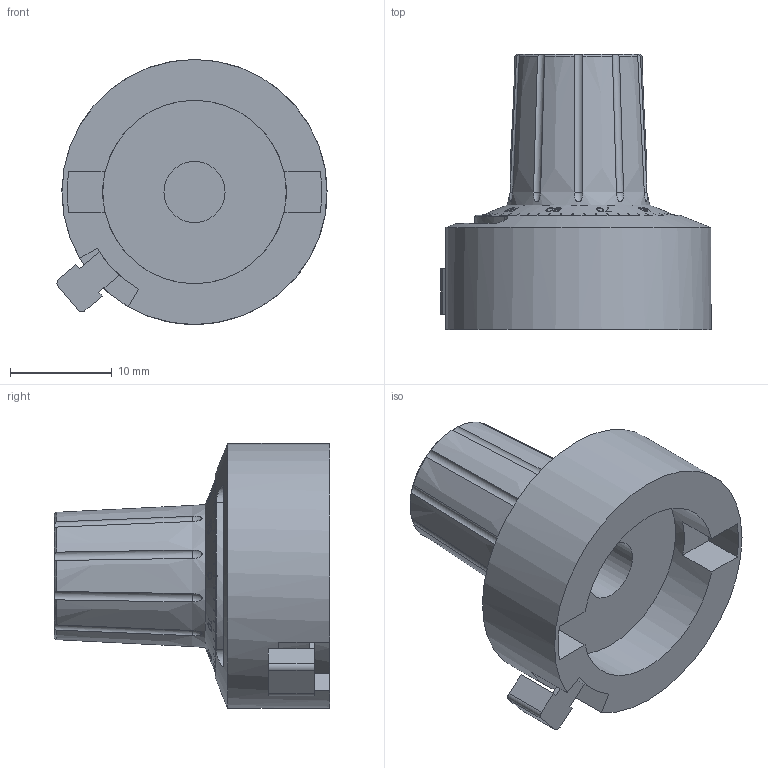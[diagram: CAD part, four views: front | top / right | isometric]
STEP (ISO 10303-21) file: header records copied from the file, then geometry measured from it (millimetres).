
FILE_DESCRIPTION (( 'STEP AP214' ), '1' );
FILE_NAME ('SKT-Dummy.STEP', '2019-05-16T12:38:11', ( '' ), ( '' ), 'SwSTEP 2.0', 'SolidWorks 2017', '' );
FILE_SCHEMA (( 'AUTOMOTIVE_DESIGN' ));
Length unit declared in the file: millimetre
Products named in the file (1): SKT-Dummy
Bounding box: 26.49 x 27 x 26 mm (x, y, z)
Volume: 6064 mm3; surface area: 3358.5 mm2
Topology: 1 solids, 1 shells, 564 faces, 1470 edges, 947 vertices
Faces by surface type: plane 349, bspline 153, cone 29, cylinder 23, torus 10
Full cylindrical faces by diameter (mm): 6 x1, 10 x1, 18 x1, 20 x1, 26 x1
Entity records: 27061 total; most frequent: CARTESIAN_POINT 14315, ORIENTED_EDGE 2906, DIRECTION 1765, EDGE_CURVE 1453, VERTEX_POINT 939, VECTOR 719, LINE 719, B_SPLINE_CURVE_WITH_KNOTS 610
